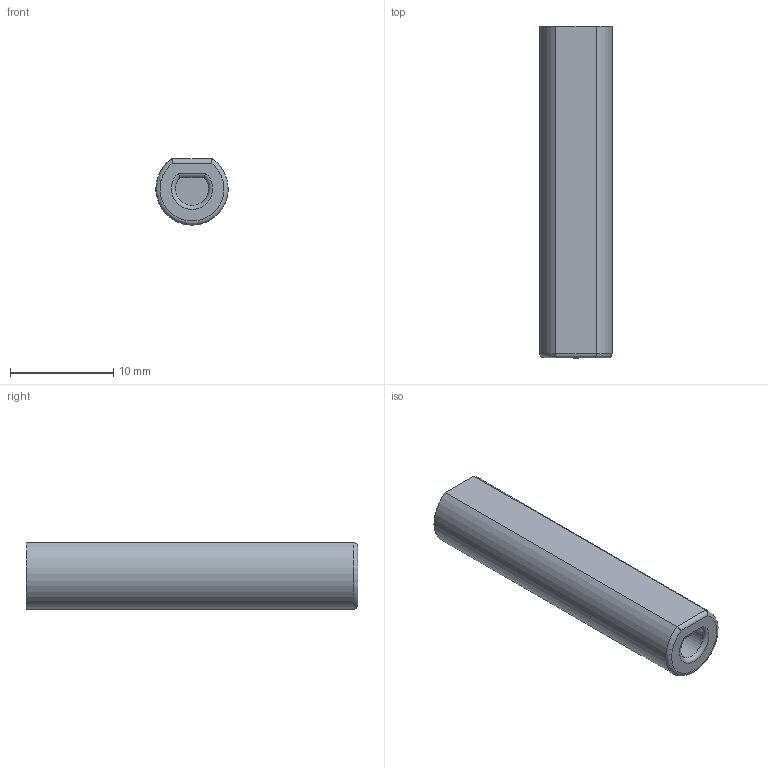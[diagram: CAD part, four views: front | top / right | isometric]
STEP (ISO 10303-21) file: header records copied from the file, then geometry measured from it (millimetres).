
FILE_DESCRIPTION(('Open CASCADE Model'),'2;1');
FILE_NAME('Open CASCADE Shape Model','2026-11-07T02:16:45',('Author'),( 'Open CASCADE'),'Open CASCADE STEP processor 8.0','build123d', 'Unknown');
FILE_SCHEMA(('AUTOMOTIVE_DESIGN { 1 0 10303 214 1 1 1 1 }'));
Length unit declared in the file: millimetre
Products named in the file (2): =>[0:1:1:2]; COMPOUND
Assembly tree (1 placements, depth 2):
  =>[0:1:1:2]
    COMPOUND
Bounding box: 6.99 x 32.12 x 6.4 mm (x, y, z)
Volume: 1082.9 mm3; surface area: 911.8 mm2
Topology: 1 solids, 1 shells, 13 faces, 23 edges, 14 vertices
Faces by surface type: plane 6, cylinder 5, torus 2
Full cylindrical faces by diameter (mm): 2.5 x1
Entity records: 787 total; most frequent: CARTESIAN_POINT 299, DIRECTION 81, ORIENTED_EDGE 46, PCURVE 46, DEFINITIONAL_REPRESENTATION 46, LINE 31, VECTOR 31, B_SPLINE_CURVE_WITH_KNOTS 24
